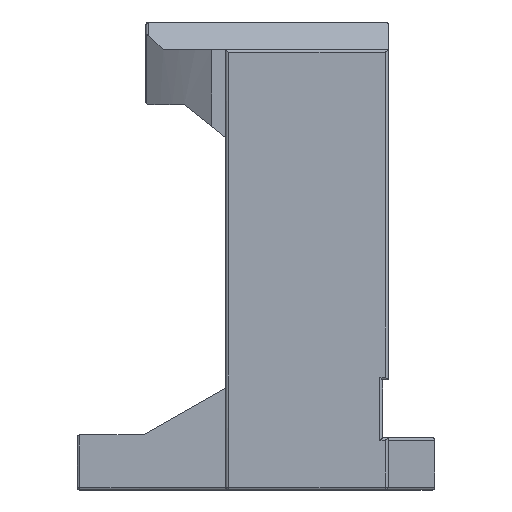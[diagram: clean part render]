
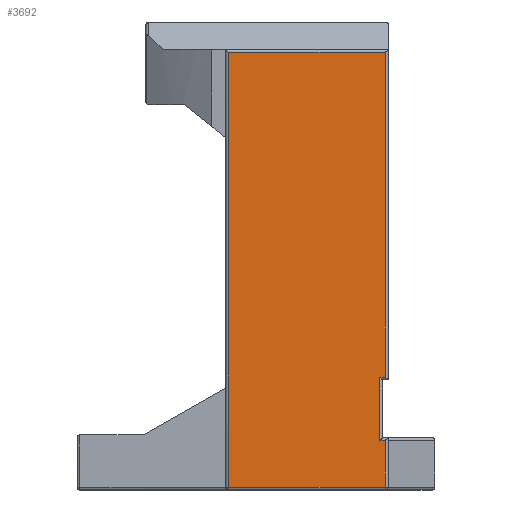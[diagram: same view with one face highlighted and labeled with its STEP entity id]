
A CAD part, left-side view. The second image highlights one B-rep face of the part: STEP entity #3692.
In plain terms, the highlighted planar face has unit normal (-1, 0, 0).
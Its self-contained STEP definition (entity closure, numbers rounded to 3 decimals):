
#33 = VECTOR ( 'NONE', #3414, 1000. ) ;
#122 = PLANE ( 'NONE',  #933 ) ;
#336 = LINE ( 'NONE', #641, #2633 ) ;
#497 = ORIENTED_EDGE ( 'NONE', *, *, #2711, .T. ) ;
#521 = VERTEX_POINT ( 'NONE', #3810 ) ;
#641 = CARTESIAN_POINT ( 'NONE',  ( -75., 72.5, 159. ) ) ;
#658 = DIRECTION ( 'NONE',  ( 0., 1., 0. ) ) ;
#764 = CARTESIAN_POINT ( 'NONE',  ( -75., -45., 18. ) ) ;
#864 = ORIENTED_EDGE ( 'NONE', *, *, #4192, .T. ) ;
#933 = AXIS2_PLACEMENT_3D ( 'NONE', #1185, #3001, #2968 ) ;
#979 = LINE ( 'NONE', #3436, #33 ) ;
#1007 = EDGE_CURVE ( 'NONE', #2072, #3220, #2644, .T. ) ;
#1103 = ORIENTED_EDGE ( 'NONE', *, *, #3253, .T. ) ;
#1151 = EDGE_CURVE ( 'NONE', #2880, #3418, #2162, .T. ) ;
#1185 = CARTESIAN_POINT ( 'NONE',  ( -75., 72.5, 25. ) ) ;
#1260 = DIRECTION ( 'NONE',  ( 0., -1., 0. ) ) ;
#1357 = ORIENTED_EDGE ( 'NONE', *, *, #1151, .T. ) ;
#1426 = CARTESIAN_POINT ( 'NONE',  ( -75., -47., 1. ) ) ;
#1482 = ORIENTED_EDGE ( 'NONE', *, *, #2879, .T. ) ;
#1495 = FACE_OUTER_BOUND ( 'NONE', #3480, .T. ) ;
#1548 = VECTOR ( 'NONE', #4312, 1000. ) ;
#1588 = CARTESIAN_POINT ( 'NONE',  ( -75., 72.5, 41. ) ) ;
#1621 = ORIENTED_EDGE ( 'NONE', *, *, #3921, .T. ) ;
#1730 = ORIENTED_EDGE ( 'NONE', *, *, #1007, .T. ) ;
#1834 = ORIENTED_EDGE ( 'NONE', *, *, #5004, .T. ) ;
#1927 = CARTESIAN_POINT ( 'NONE',  ( -75., 10., 1. ) ) ;
#1965 = VECTOR ( 'NONE', #3665, 1000. ) ;
#2014 = CARTESIAN_POINT ( 'NONE',  ( -75., -47., 19. ) ) ;
#2034 = LINE ( 'NONE', #4492, #1965 ) ;
#2040 = CARTESIAN_POINT ( 'NONE',  ( -75., 10., 159. ) ) ;
#2072 = VERTEX_POINT ( 'NONE', #2040 ) ;
#2162 = LINE ( 'NONE', #2642, #2415 ) ;
#2397 = LINE ( 'NONE', #4388, #1548 ) ;
#2415 = VECTOR ( 'NONE', #2654, 1000. ) ;
#2619 = DIRECTION ( 'NONE',  ( 0., 0., 1. ) ) ;
#2633 = VECTOR ( 'NONE', #658, 1000. ) ;
#2642 = CARTESIAN_POINT ( 'NONE',  ( -75., 72.5, 18. ) ) ;
#2644 = LINE ( 'NONE', #3117, #3113 ) ;
#2654 = DIRECTION ( 'NONE',  ( 0., 1., 0. ) ) ;
#2711 = EDGE_CURVE ( 'NONE', #3759, #2072, #336, .T. ) ;
#2879 = EDGE_CURVE ( 'NONE', #3360, #3759, #2397, .T. ) ;
#2880 = VERTEX_POINT ( 'NONE', #4570 ) ;
#2912 = LINE ( 'NONE', #2014, #3131 ) ;
#2968 = DIRECTION ( 'NONE',  ( 0., 1., 0. ) ) ;
#3001 = DIRECTION ( 'NONE',  ( 1., 0., 0. ) ) ;
#3113 = VECTOR ( 'NONE', #3227, 1000. ) ;
#3117 = CARTESIAN_POINT ( 'NONE',  ( -75., 10., 25. ) ) ;
#3131 = VECTOR ( 'NONE', #2619, 1000. ) ;
#3220 = VERTEX_POINT ( 'NONE', #1927 ) ;
#3227 = DIRECTION ( 'NONE',  ( 0., 0., -1. ) ) ;
#3253 = EDGE_CURVE ( 'NONE', #521, #3360, #3894, .T. ) ;
#3360 = VERTEX_POINT ( 'NONE', #4753 ) ;
#3414 = DIRECTION ( 'NONE',  ( 0., 0., 1. ) ) ;
#3418 = VERTEX_POINT ( 'NONE', #764 ) ;
#3436 = CARTESIAN_POINT ( 'NONE',  ( -75., -45., 25. ) ) ;
#3480 = EDGE_LOOP ( 'NONE', ( #1482, #497, #1730, #1834, #1621, #1357, #864, #1103 ) ) ;
#3625 = VERTEX_POINT ( 'NONE', #1426 ) ;
#3665 = DIRECTION ( 'NONE',  ( 0., -1., 0. ) ) ;
#3692 = ADVANCED_FACE ( 'NONE', ( #1495 ), #122, .F. ) ;
#3759 = VERTEX_POINT ( 'NONE', #4186 ) ;
#3810 = CARTESIAN_POINT ( 'NONE',  ( -75., -45., 41. ) ) ;
#3894 = LINE ( 'NONE', #1588, #4267 ) ;
#3921 = EDGE_CURVE ( 'NONE', #3625, #2880, #2912, .T. ) ;
#4186 = CARTESIAN_POINT ( 'NONE',  ( -75., -47., 159. ) ) ;
#4192 = EDGE_CURVE ( 'NONE', #3418, #521, #979, .T. ) ;
#4267 = VECTOR ( 'NONE', #1260, 1000. ) ;
#4312 = DIRECTION ( 'NONE',  ( 0., 0., 1. ) ) ;
#4388 = CARTESIAN_POINT ( 'NONE',  ( -75., -47., 25. ) ) ;
#4492 = CARTESIAN_POINT ( 'NONE',  ( -75., 72.5, 1. ) ) ;
#4570 = CARTESIAN_POINT ( 'NONE',  ( -75., -47., 18. ) ) ;
#4753 = CARTESIAN_POINT ( 'NONE',  ( -75., -47., 41. ) ) ;
#5004 = EDGE_CURVE ( 'NONE', #3220, #3625, #2034, .T. ) ;
